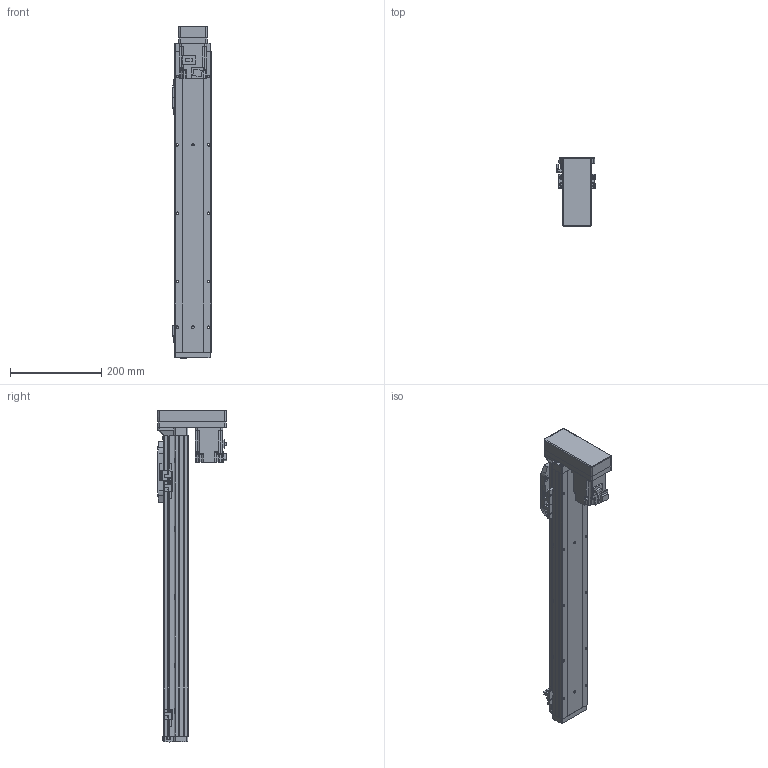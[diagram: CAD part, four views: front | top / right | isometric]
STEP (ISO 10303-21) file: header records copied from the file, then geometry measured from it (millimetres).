
FILE_DESCRIPTION (( 'STEP AP214' ), '1' );
FILE_NAME ('GSH8-500-BM-M20-1.step', '2025-01-07T06:08:33', ( '' ), ( '' ), 'SwSTEP 2.0', 'SolidWorks 2012', '' );
FILE_SCHEMA (( 'AUTOMOTIVE_DESIGN' ));
Length unit declared in the file: millimetre
Products named in the file (5): GSH8-BL-011-500-M20; HG-KR23_200W_Motor; GSH8-BL-008; GSH8-500-BM-M20-1; GSH8-GY-004
Assembly tree (4 placements, depth 2):
  GSH8-500-BM-M20-1
    GSH8-BL-011-500-M20
    GSH8-GY-004
    GSH8-BL-008
    HG-KR23_200W_Motor
Bounding box: 84 x 152.3 x 728.2 mm (x, y, z)
Volume: 1927922.8 mm3; surface area: 466247 mm2
Topology: 4 solids, 8 shells, 1118 faces, 2927 edges, 1882 vertices
Faces by surface type: plane 636, cylinder 386, torus 42, cone 26, bspline 24, sphere 4
Entity records: 43781 total; most frequent: CARTESIAN_POINT 9876, DIRECTION 5939, ORIENTED_EDGE 5838, EDGE_CURVE 2919, AXIS2_PLACEMENT_3D 1997, LINE 1945, VECTOR 1945, VERTEX_POINT 1878
